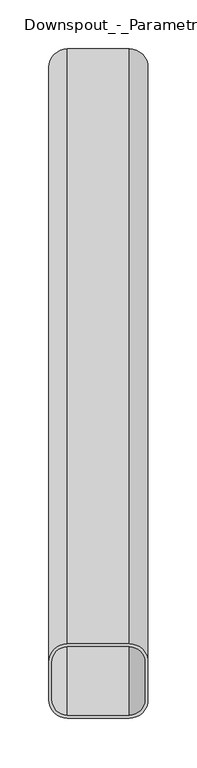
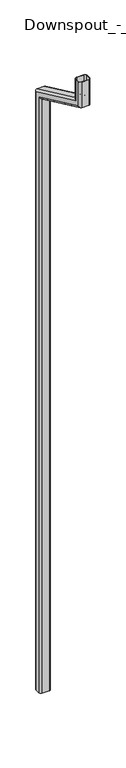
"""IFC4 building model written with IfcOpenShell, lengths in millimetres: proxy geometry, Downspout_-_Parametric_5251 : 18'."""

from ifc_helpers import new_model, si_unit, frame, origin, origin_with_axes, place, context, project, spatial, polyline, circle_curve, ellipse_curve, source, transform, mapped, element, save
from ifc_brep_helpers import plane_surface, cylinder_surface, revolved_surface, advanced_brep


def downspout_parametric_5251_18_830a5993(model_context):
    return source(origin(), model_context, "Body", "AdvancedBrep", [
        advanced_brep(
        [(50.8, 19.05, 0.0), (31.75, 38.1, 0.0), (-31.75, 38.1, 0.0), (-50.8, 19.05, 0.0), (-50.8, -19.05, 0.0), (-31.75, -38.1, 0.0), (31.75, -38.1, 0.0), (50.8, -19.05, 0.0), (47.625, 19.05, 0.0), (47.625, -19.05, 0.0), (31.75, -34.925, 0.0), (-31.75, -34.925, 0.0), (-47.625, -19.05, 0.0), (-47.625, 19.05, 0.0), (-31.75, 34.925, 0.0), (31.75, 34.925, 0.0), (50.8, 19.05, -203.7391312), (31.75, 38.1, -191.6029427), (-31.75, 38.1, -191.6029427), (-50.8, 19.05, -203.7391312), (-50.8, 628.65, -488.0002796), (-50.8, 628.65, -6115.05), (-50.8, 590.55, -6115.05), (-50.8, 590.55, -512.2726565), (-50.8, -19.05, -228.0115081), (-31.75, -38.1, -240.1476966), (31.75, -38.1, -240.1476966), (50.8, -19.05, -228.0115081), (50.8, 590.55, -512.2726565), (50.8, 590.55, -6115.05), (50.8, 628.65, -6115.05), (50.8, 628.65, -488.0002796), (47.625, 19.05, -203.7391312), (47.625, 628.65, -488.0002796), (47.625, 628.65, -6115.05), (47.625, 590.55, -6115.05), (47.625, 590.55, -512.2726565), (47.625, -19.05, -228.0115081), (31.75, -34.925, -238.1249985), (-31.75, -34.925, -238.1249985), (-47.625, -19.05, -228.0115081), (-47.625, 590.55, -512.2726565), (-47.625, 590.55, -6115.05), (-47.625, 628.65, -6115.05), (-47.625, 628.65, -488.0002796), (-47.625, 19.05, -203.7391312), (-31.75, 34.925, -193.6256408), (31.75, 34.925, -193.6256408), (31.75, 647.7, -475.8640911), (-31.75, 647.7, -475.8640911), (-31.75, 571.5, -524.408845), (31.75, 571.5, -524.408845), (31.75, 574.675, -522.3861469), (-31.75, 574.675, -522.3861469), (-31.75, 644.525, -477.8867892), (31.75, 644.525, -477.8867892), (31.75, 571.5, -6115.05), (-31.75, 571.5, -6115.05), (-31.75, 647.7, -6115.05), (31.75, 647.7, -6115.05), (31.75, 644.525, -6115.05), (-31.75, 644.525, -6115.05), (-31.75, 574.675, -6115.05), (31.75, 574.675, -6115.05)],
        [
            (0, 1, circle_curve(frame((31.75, 19.05, 0.0), z_axis=(0.0, 0.0, 1.0), x_axis=(0.0, 1.0, 0.0)), 19.05)),
            (1, 2),
            (2, 3, circle_curve(frame((-31.75, 19.05, 0.0), z_axis=(0.0, 0.0, 1.0), x_axis=(0.0, 1.0, 0.0)), 19.05)),
            (3, 4),
            (4, 5, circle_curve(frame((-31.75, -19.05, 0.0), z_axis=(0.0, 0.0, 1.0), x_axis=(0.0, 1.0, 0.0)), 19.05)),
            (5, 6),
            (6, 7, circle_curve(frame((31.75, -19.05, 0.0), z_axis=(0.0, 0.0, 1.0), x_axis=(0.0, 1.0, 0.0)), 19.05)),
            (7, 0),
            (8, 9),
            (9, 10, circle_curve(frame((31.75, -19.05, 0.0), z_axis=(0.0, 0.0, -1.0), x_axis=(0.0, 1.0, 0.0)), 15.875)),
            (10, 11),
            (11, 12, circle_curve(frame((-31.75, -19.05, 0.0), z_axis=(0.0, 0.0, -1.0), x_axis=(0.0, 1.0, 0.0)), 15.875)),
            (12, 13),
            (13, 14, circle_curve(frame((-31.75, 19.05, 0.0), z_axis=(0.0, 0.0, -1.0), x_axis=(0.0, 1.0, 0.0)), 15.875)),
            (14, 15),
            (15, 8, circle_curve(frame((31.75, 19.05, 0.0), z_axis=(0.0, 0.0, -1.0), x_axis=(0.0, 1.0, 0.0)), 15.875)),
            (0, 16),
            (16, 17, ellipse_curve(frame((31.75, 19.05, -203.7391312), z_axis=(0.0, -0.5372996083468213, 0.8433914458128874), x_axis=(0.0, 0.8433914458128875, 0.5372996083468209)), 22.5873764, 19.05)),
            (17, 1),
            (17, 18),
            (18, 2),
            (18, 19, ellipse_curve(frame((-31.75, 19.05, -203.7391312), z_axis=(0.0, -0.5372996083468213, 0.8433914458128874), x_axis=(0.0, 0.8433914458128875, 0.5372996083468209)), 22.5873764, 19.05)),
            (19, 3),
            (19, 20),
            (20, 21),
            (21, 22),
            (22, 23),
            (23, 24),
            (24, 4),
            (24, 25, ellipse_curve(frame((-31.75, -19.05, -228.0115081), z_axis=(0.0, -0.5372996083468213, 0.8433914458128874), x_axis=(0.0, 0.8433914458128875, 0.5372996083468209)), 22.5873764, 19.05)),
            (25, 5),
            (25, 26),
            (26, 6),
            (26, 27, ellipse_curve(frame((31.75, -19.05, -228.0115081), z_axis=(0.0, -0.5372996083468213, 0.8433914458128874), x_axis=(0.0, 0.8433914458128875, 0.5372996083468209)), 22.5873764, 19.05)),
            (27, 7),
            (27, 28),
            (28, 29),
            (29, 30),
            (30, 31),
            (31, 16),
            (8, 32),
            (32, 33),
            (33, 34),
            (34, 35),
            (35, 36),
            (36, 37),
            (37, 9),
            (37, 38, ellipse_curve(frame((31.75, -19.05, -228.0115081), z_axis=(0.0, 0.5372996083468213, -0.8433914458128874), x_axis=(0.0, -0.8433914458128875, -0.5372996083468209)), 18.8228136, 15.875)),
            (38, 10),
            (38, 39),
            (39, 11),
            (39, 40, ellipse_curve(frame((-31.75, -19.05, -228.0115081), z_axis=(0.0, 0.5372996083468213, -0.8433914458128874), x_axis=(0.0, -0.8433914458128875, -0.5372996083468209)), 18.8228136, 15.875)),
            (40, 12),
            (40, 41),
            (41, 42),
            (42, 43),
            (43, 44),
            (44, 45),
            (45, 13),
            (45, 46, ellipse_curve(frame((-31.75, 19.05, -203.7391312), z_axis=(0.0, 0.5372996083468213, -0.8433914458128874), x_axis=(0.0, -0.8433914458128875, -0.5372996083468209)), 18.8228136, 15.875)),
            (46, 14),
            (46, 47),
            (47, 15),
            (47, 32, ellipse_curve(frame((31.75, 19.05, -203.7391312), z_axis=(0.0, 0.5372996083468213, -0.8433914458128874), x_axis=(0.0, -0.8433914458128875, -0.5372996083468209)), 18.8228136, 15.875)),
            (31, 48, ellipse_curve(frame((31.75, 628.65, -488.0002796), z_axis=(0.0, -0.5372996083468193, 0.8433914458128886), x_axis=(0.0, -0.8433914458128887, -0.5372996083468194)), 22.5873764, 19.05)),
            (48, 17),
            (48, 49),
            (49, 18),
            (49, 20, ellipse_curve(frame((-31.75, 628.65, -488.0002796), z_axis=(0.0, -0.5372996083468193, 0.8433914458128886), x_axis=(0.0, -0.8433914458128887, -0.5372996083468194)), 22.5873764, 19.05)),
            (23, 50, ellipse_curve(frame((-31.75, 590.55, -512.2726565), z_axis=(0.0, -0.5372996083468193, 0.8433914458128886), x_axis=(0.0, -0.8433914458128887, -0.5372996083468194)), 22.5873764, 19.05)),
            (50, 25),
            (50, 51),
            (51, 26),
            (51, 28, ellipse_curve(frame((31.75, 590.55, -512.2726565), z_axis=(0.0, -0.5372996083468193, 0.8433914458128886), x_axis=(0.0, -0.8433914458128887, -0.5372996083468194)), 22.5873764, 19.05)),
            (36, 52, ellipse_curve(frame((31.75, 590.55, -512.2726565), z_axis=(0.0, 0.5372996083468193, -0.8433914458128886), x_axis=(0.0, 0.8433914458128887, 0.5372996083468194)), 18.8228136, 15.875)),
            (52, 38),
            (52, 53),
            (53, 39),
            (53, 41, ellipse_curve(frame((-31.75, 590.55, -512.2726565), z_axis=(0.0, 0.5372996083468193, -0.8433914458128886), x_axis=(0.0, 0.8433914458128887, 0.5372996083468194)), 18.8228136, 15.875)),
            (44, 54, ellipse_curve(frame((-31.75, 628.65, -488.0002796), z_axis=(0.0, 0.5372996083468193, -0.8433914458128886), x_axis=(0.0, 0.8433914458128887, 0.5372996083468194)), 18.8228136, 15.875)),
            (54, 46),
            (54, 55),
            (55, 47),
            (55, 33, ellipse_curve(frame((31.75, 628.65, -488.0002796), z_axis=(0.0, 0.5372996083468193, -0.8433914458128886), x_axis=(0.0, 0.8433914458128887, 0.5372996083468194)), 18.8228136, 15.875)),
            (29, 56, circle_curve(frame((31.75, 590.55, -6115.05), z_axis=(0.0, 0.0, -1.0), x_axis=(0.0, 1.0, 0.0)), 19.05)),
            (56, 57),
            (57, 22, circle_curve(frame((-31.75, 590.55, -6115.05), z_axis=(0.0, 0.0, -1.0), x_axis=(0.0, 1.0, 0.0)), 19.05)),
            (21, 58, circle_curve(frame((-31.75, 628.65, -6115.05), z_axis=(0.0, 0.0, -1.0), x_axis=(0.0, 1.0, 0.0)), 19.05)),
            (58, 59),
            (59, 30, circle_curve(frame((31.75, 628.65, -6115.05), z_axis=(0.0, 0.0, -1.0), x_axis=(0.0, 1.0, 0.0)), 19.05)),
            (34, 60, circle_curve(frame((31.75, 628.65, -6115.05), z_axis=(0.0, 0.0, 1.0), x_axis=(0.0, 1.0, 0.0)), 15.875)),
            (60, 61),
            (61, 43, circle_curve(frame((-31.75, 628.65, -6115.05), z_axis=(0.0, 0.0, 1.0), x_axis=(0.0, 1.0, 0.0)), 15.875)),
            (42, 62, circle_curve(frame((-31.75, 590.55, -6115.05), z_axis=(0.0, 0.0, 1.0), x_axis=(0.0, 1.0, 0.0)), 15.875)),
            (62, 63),
            (63, 35, circle_curve(frame((31.75, 590.55, -6115.05), z_axis=(0.0, 0.0, 1.0), x_axis=(0.0, 1.0, 0.0)), 15.875)),
            (59, 48),
            (58, 49),
            (57, 50),
            (56, 51),
            (63, 52),
            (62, 53),
            (61, 54),
            (60, 55),
        ],
        [
            plane_surface(origin_with_axes()),
            cylinder_surface(frame((31.75, 19.05, 0.0), z_axis=(0.0, 0.0, 1.0), x_axis=(0.0, 1.0, 0.0)), 19.05),
            plane_surface(frame((31.75, 38.1, 0.0), z_axis=(0.0, 1.0, 0.0), x_axis=(0.0, 0.0, -1.0))),
            cylinder_surface(frame((-31.75, 19.05, 0.0), z_axis=(0.0, 0.0, 1.0), x_axis=(0.0, 1.0, 0.0)), 19.05),
            plane_surface(frame((-50.8, 19.05, 0.0), z_axis=(-1.0, 0.0, 0.0), x_axis=(0.0, 0.0, -1.0))),
            cylinder_surface(frame((-31.75, -19.05, 0.0), z_axis=(0.0, 0.0, 1.0), x_axis=(0.0, 1.0, 0.0)), 19.05),
            plane_surface(frame((-31.75, -38.1, 0.0), z_axis=(0.0, -1.0, 0.0), x_axis=(0.0, 0.0, -1.0))),
            cylinder_surface(frame((31.75, -19.05, 0.0), z_axis=(0.0, 0.0, 1.0), x_axis=(0.0, 1.0, 0.0)), 19.05),
            plane_surface(frame((50.8, -19.05, 0.0), z_axis=(1.0, 0.0, 0.0), x_axis=(0.0, 0.0, -1.0))),
            plane_surface(frame((47.625, 19.05, 0.0), z_axis=(-1.0, 0.0, 0.0), x_axis=(0.0, 0.0, -1.0))),
            revolved_surface(polyline([(31.75, -3.1750000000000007, -238.1249985), (31.75, -3.1750000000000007, 0.0)]), (31.75, -19.05, 0.0), (0.0, 0.0, -1.0)),
            plane_surface(frame((31.75, -34.925, 0.0), z_axis=(0.0, 1.0, 0.0), x_axis=(0.0, 0.0, -1.0))),
            revolved_surface(polyline([(-31.75, -3.1750000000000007, -238.1249985), (-31.75, -3.1750000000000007, 0.0)]), (-31.75, -19.05, 0.0), (0.0, 0.0, -1.0)),
            plane_surface(frame((-47.625, -19.05, 0.0), z_axis=(1.0, 0.0, 0.0), x_axis=(0.0, 0.0, -1.0))),
            revolved_surface(polyline([(-31.75, 34.925, -213.8526215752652), (-31.75, 34.925, 0.0)]), (-31.75, 19.05, 0.0), (0.0, 0.0, -1.0)),
            plane_surface(frame((-31.75, 34.925, 0.0), z_axis=(0.0, -1.0, 0.0), x_axis=(0.0, 0.0, -1.0))),
            revolved_surface(polyline([(31.75, 34.925, -213.8526215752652), (31.75, 34.925, 0.0)]), (31.75, 19.05, 0.0), (0.0, 0.0, -1.0)),
            cylinder_surface(frame((31.75, 8.0508779, -198.6101563), z_axis=(0.0, -0.9063077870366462, 0.42261826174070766), x_axis=(0.0, 0.42261826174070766, 0.9063077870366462)), 19.05),
            plane_surface(frame((31.75, 38.1, -191.6029427), z_axis=(0.0, 0.42261826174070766, 0.9063077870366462), x_axis=(0.0, 0.9063077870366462, -0.42261826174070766))),
            cylinder_surface(frame((-31.75, 8.0508779, -198.6101563), z_axis=(0.0, -0.9063077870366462, 0.42261826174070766), x_axis=(0.0, 0.42261826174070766, 0.9063077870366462)), 19.05),
            cylinder_surface(frame((-31.75, -8.0508779, -233.140483), z_axis=(0.0, -0.9063077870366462, 0.42261826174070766), x_axis=(0.0, 0.42261826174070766, 0.9063077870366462)), 19.05),
            plane_surface(frame((-31.75, -38.1, -240.1476966), z_axis=(0.0, -0.4226182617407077, -0.9063077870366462), x_axis=(0.0, 0.9063077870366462, -0.4226182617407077))),
            cylinder_surface(frame((31.75, -8.0508779, -233.140483), z_axis=(0.0, -0.9063077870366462, 0.42261826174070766), x_axis=(0.0, 0.42261826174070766, 0.9063077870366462)), 19.05),
            revolved_surface(polyline([(31.75, 606.4249999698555, -502.15916613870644), (31.75, -21.506870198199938, -209.3497262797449)]), (31.75, -8.0508779, -233.140483), (0.0, 0.9063077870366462, -0.42261826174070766)),
            plane_surface(frame((31.75, -34.925, -238.1249985), z_axis=(0.0, 0.4226182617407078, 0.9063077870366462), x_axis=(0.0, 0.9063077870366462, -0.4226182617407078))),
            revolved_surface(polyline([(-31.75, 606.4249999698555, -502.15916613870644), (-31.75, -21.506870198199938, -209.3497262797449)]), (-31.75, -8.0508779, -233.140483), (0.0, 0.9063077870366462, -0.42261826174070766)),
            revolved_surface(polyline([(-31.75, 644.5250000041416, -477.8867891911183), (-31.75, 16.593129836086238, -185.07734933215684)]), (-31.75, 8.0508779, -198.6101563), (0.0, 0.9063077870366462, -0.42261826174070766)),
            plane_surface(frame((-31.75, 34.925, -193.6256408), z_axis=(0.0, -0.42261826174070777, -0.9063077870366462), x_axis=(0.0, 0.9063077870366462, -0.42261826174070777))),
            revolved_surface(polyline([(31.75, 644.5250000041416, -477.8867891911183), (31.75, 16.593129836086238, -185.07734933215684)]), (31.75, 8.0508779, -198.6101563), (0.0, 0.9063077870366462, -0.42261826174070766)),
            plane_surface(frame((0.0, 609.6, -6115.05), z_axis=(0.0, 0.0, -1.0), x_axis=(1.0, 0.0, 0.0))),
            cylinder_surface(frame((31.75, 628.65, -500.1364681), z_axis=(0.0, 0.0, 1.0), x_axis=(0.0, 1.0, 0.0)), 19.05),
            plane_surface(frame((31.75, 647.7, -475.8640911), z_axis=(0.0, 1.0, 0.0), x_axis=(0.0, 0.0, -1.0))),
            cylinder_surface(frame((-31.75, 628.65, -500.1364681), z_axis=(0.0, 0.0, 1.0), x_axis=(0.0, 1.0, 0.0)), 19.05),
            cylinder_surface(frame((-31.75, 590.55, -500.1364681), z_axis=(0.0, 0.0, 1.0), x_axis=(0.0, 1.0, 0.0)), 19.05),
            plane_surface(frame((-31.75, 571.5, -524.408845), z_axis=(0.0, -1.0, 0.0), x_axis=(0.0, 0.0, -1.0))),
            cylinder_surface(frame((31.75, 590.55, -500.1364681), z_axis=(0.0, 0.0, 1.0), x_axis=(0.0, 1.0, 0.0)), 19.05),
            revolved_surface(polyline([(31.75, 606.425, -6115.049999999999), (31.75, 606.425, -502.15916612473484)]), (31.75, 590.55, -500.1364681), (0.0, 0.0, -1.0)),
            plane_surface(frame((31.75, 574.675, -522.3861469), z_axis=(0.0, 1.0, 0.0), x_axis=(0.0, 0.0, -1.0))),
            revolved_surface(polyline([(-31.75, 606.425, -6115.049999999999), (-31.75, 606.425, -502.15916612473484)]), (-31.75, 590.55, -500.1364681), (0.0, 0.0, -1.0)),
            revolved_surface(polyline([(-31.75, 644.525, -6115.049999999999), (-31.75, 644.525, -477.8867892)]), (-31.75, 628.65, -500.1364681), (0.0, 0.0, -1.0)),
            plane_surface(frame((-31.75, 644.525, -477.8867892), z_axis=(0.0, -1.0, 0.0), x_axis=(0.0, 0.0, -1.0))),
            revolved_surface(polyline([(31.75, 644.525, -6115.049999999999), (31.75, 644.525, -477.8867892)]), (31.75, 628.65, -500.1364681), (0.0, 0.0, -1.0)),
        ],
        [
            (0, [[1, 2, 3, 4, 5, 6, 7, 8], [9, 10, 11, 12, 13, 14, 15, 16]]),
            (1, [[-1, 17, 18, 19]]),
            (2, [[-2, -19, 20, 21]]),
            (3, [[-3, -21, 22, 23]]),
            (4, [[-4, -23, 24, 25, 26, 27, 28, 29]]),
            (5, [[-5, -29, 30, 31]]),
            (6, [[-6, -31, 32, 33]]),
            (7, [[-7, -33, 34, 35]]),
            (8, [[-8, -35, 36, 37, 38, 39, 40, -17]]),
            (9, [[-9, 41, 42, 43, 44, 45, 46, 47]]),
            (10, [[-10, -47, 48, 49]]),
            (11, [[-11, -49, 50, 51]]),
            (12, [[-12, -51, 52, 53]]),
            (13, [[-13, -53, 54, 55, 56, 57, 58, 59]]),
            (14, [[-14, -59, 60, 61]]),
            (15, [[-15, -61, 62, 63]]),
            (16, [[-16, -63, 64, -41]]),
            (17, [[-18, -40, 65, 66]]),
            (18, [[-20, -66, 67, 68]]),
            (19, [[-22, -68, 69, -24]]),
            (20, [[-30, -28, 70, 71]]),
            (21, [[-32, -71, 72, 73]]),
            (22, [[-34, -73, 74, -36]]),
            (23, [[-48, -46, 75, 76]]),
            (24, [[-50, -76, 77, 78]]),
            (25, [[-52, -78, 79, -54]]),
            (26, [[-60, -58, 80, 81]]),
            (27, [[-62, -81, 82, 83]]),
            (28, [[-64, -83, 84, -42]]),
            (29, [[-38, 85, 86, 87, -26, 88, 89, 90], [91, 92, 93, -56, 94, 95, 96, -44]]),
            (30, [[-65, -39, -90, 97]]),
            (31, [[-67, -97, -89, 98]]),
            (32, [[-69, -98, -88, -25]]),
            (33, [[-70, -27, -87, 99]]),
            (34, [[-72, -99, -86, 100]]),
            (35, [[-74, -100, -85, -37]]),
            (36, [[-75, -45, -96, 101]]),
            (37, [[-77, -101, -95, 102]]),
            (38, [[-79, -102, -94, -55]]),
            (39, [[-80, -57, -93, 103]]),
            (40, [[-82, -103, -92, 104]]),
            (41, [[-84, -104, -91, -43]]),
        ],
    ),
    ])


if __name__ == "__main__":
    model = new_model("IFC4")
    model_context = context("Model", 3, world=origin())
    ifc_project = project(units=[si_unit("LENGTHUNIT", "METRE", prefix="MILLI")], contexts=[model_context])
    site = spatial("IfcSite", under=ifc_project)
    building = spatial("IfcBuilding", under=site)
    placement = place(None, origin())
    downspout_parametric_5251_18_shape = downspout_parametric_5251_18_830a5993(model_context)
    element("IfcBuildingElementProxy", 1, Name="Downspout_-_Parametric_5251 : 18'", ObjectType="Downspout_-_Parametric_5251 : 18'", at=placement, inside=building, context=model_context, shape_type="MappedRepresentation", body=[
        mapped(downspout_parametric_5251_18_shape, transform((0.0, 0.0, 0.0), x_axis=(1.0, 0.0, 0.0), y_axis=(0.0, 1.0, 0.0), z_axis=(0.0, 0.0, 1.0))),
    ])
    save(model, "model.ifc")
